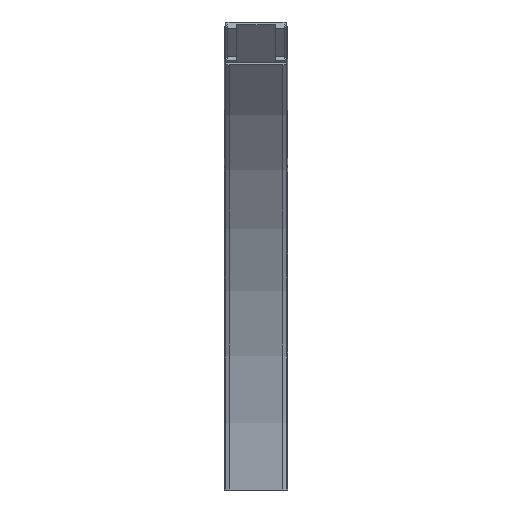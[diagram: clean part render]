
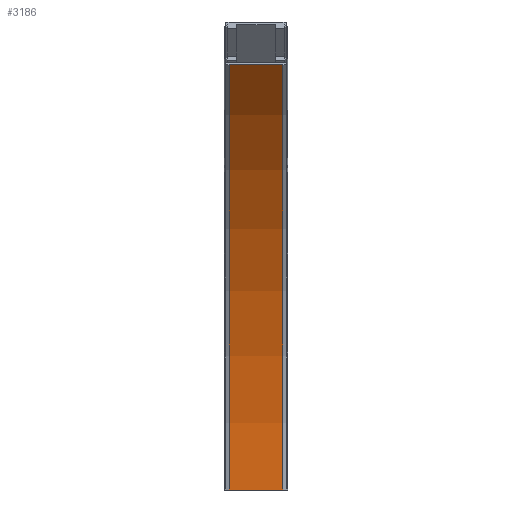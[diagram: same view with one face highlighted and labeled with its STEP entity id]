
A CAD part, front view. The second image highlights one B-rep face of the part: STEP entity #3186.
In plain terms, the highlighted cylindrical face has radius 817.5 mm (diameter 1635 mm), a partial arc.
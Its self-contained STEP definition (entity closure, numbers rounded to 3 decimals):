
#3128=CARTESIAN_POINT('',(36.5,-250.44,578.06));
#3129=VERTEX_POINT('',#3128);
#3136=CARTESIAN_POINT('',(36.5,-11.,0.0));
#3137=VERTEX_POINT('',#3136);
#3138=CARTESIAN_POINT('',(36.5,-828.5,0.));
#3139=DIRECTION('',(1.0,0.0,0.0));
#3140=DIRECTION('',(0.0,1.0,0.0));
#3141=AXIS2_PLACEMENT_3D('',#3138,#3139,#3140);
#3142=CIRCLE('',#3141,817.5);
#3143=EDGE_CURVE('',#3137,#3129,#3142,.T.);
#3155=CARTESIAN_POINT('',(0.,-828.5,0.));
#3156=DIRECTION('',(1.0,0.0,0.0));
#3157=DIRECTION('',(0.0,1.0,0.0));
#3158=AXIS2_PLACEMENT_3D('',#3155,#3156,#3157);
#3159=CYLINDRICAL_SURFACE('',#3158,817.5);
#3160=CARTESIAN_POINT('',(-36.5,-250.44,578.06));
#3161=VERTEX_POINT('',#3160);
#3162=CARTESIAN_POINT('',(36.5,-250.44,578.06));
#3163=DIRECTION('',(-1.0,0.0,0.0));
#3164=VECTOR('',#3163,73.);
#3165=LINE('',#3162,#3164);
#3166=EDGE_CURVE('',#3129,#3161,#3165,.T.);
#3167=ORIENTED_EDGE('',*,*,#3166,.T.);
#3168=CARTESIAN_POINT('',(-36.5,-11.,0.0));
#3169=VERTEX_POINT('',#3168);
#3170=CARTESIAN_POINT('',(-36.5,-828.5,0.));
#3171=DIRECTION('',(1.0,0.0,0.0));
#3172=DIRECTION('',(0.0,1.0,0.0));
#3173=AXIS2_PLACEMENT_3D('',#3170,#3171,#3172);
#3174=CIRCLE('',#3173,817.5);
#3175=EDGE_CURVE('',#3169,#3161,#3174,.T.);
#3176=ORIENTED_EDGE('',*,*,#3175,.F.);
#3177=CARTESIAN_POINT('',(-36.5,-11.,0.0));
#3178=DIRECTION('',(1.0,0.0,0.0));
#3179=VECTOR('',#3178,73.);
#3180=LINE('',#3177,#3179);
#3181=EDGE_CURVE('',#3169,#3137,#3180,.T.);
#3182=ORIENTED_EDGE('',*,*,#3181,.T.);
#3183=ORIENTED_EDGE('',*,*,#3143,.T.);
#3184=EDGE_LOOP('',(#3167,#3176,#3182,#3183));
#3185=FACE_OUTER_BOUND('',#3184,.T.);
#3186=ADVANCED_FACE('',(#3185),#3159,.F.);
